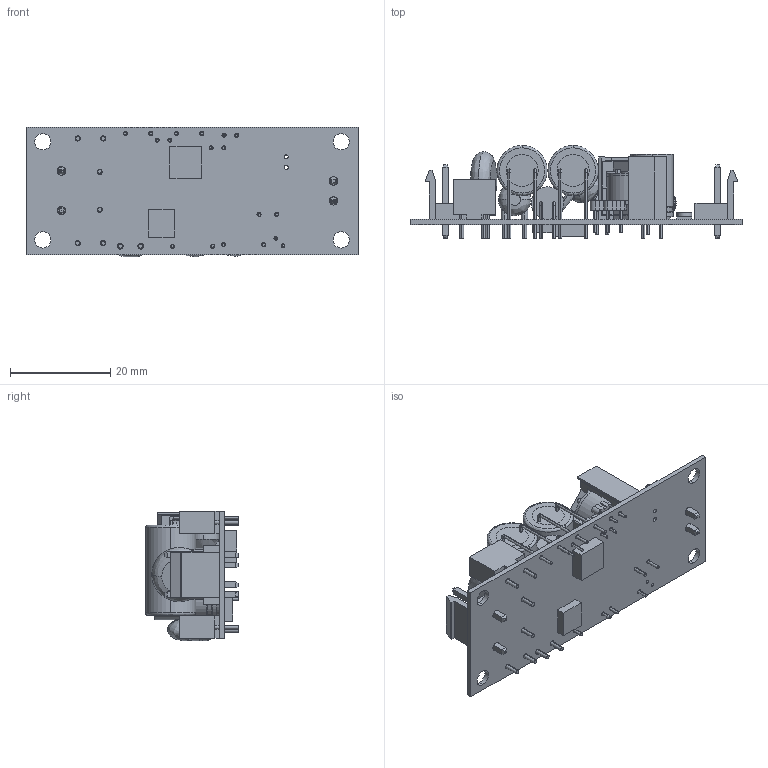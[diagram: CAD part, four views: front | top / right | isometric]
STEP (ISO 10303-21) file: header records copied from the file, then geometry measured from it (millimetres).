
FILE_DESCRIPTION (( 'STEP AP214' ), '1' );
FILE_NAME ('tpp15a-j_over10VDC.STEP', '2017-12-14T14:32:28', ( '' ), ( '' ), 'SwSTEP 2.0', 'SolidWorks 2013', '' );
FILE_SCHEMA (( 'AUTOMOTIVE_DESIGN' ));
Length unit declared in the file: millimetre
Products named in the file (1): tpp15a-j_over10VDC
Bounding box: 66.19 x 18.55 x 25.86 mm (x, y, z)
Volume: 8925.2 mm3; surface area: 11371.6 mm2
Topology: 24 solids, 24 shells, 1578 faces, 4086 edges, 2675 vertices
Faces by surface type: cylinder 557, bspline 536, plane 479, cone 6
Entity records: 75234 total; most frequent: CARTESIAN_POINT 21595, ORIENTED_EDGE 8152, DIRECTION 6890, EDGE_CURVE 4076, VERTEX_POINT 2674, AXIS2_PLACEMENT_3D 2651, EDGE_LOOP 1784, CIRCLE 1608
